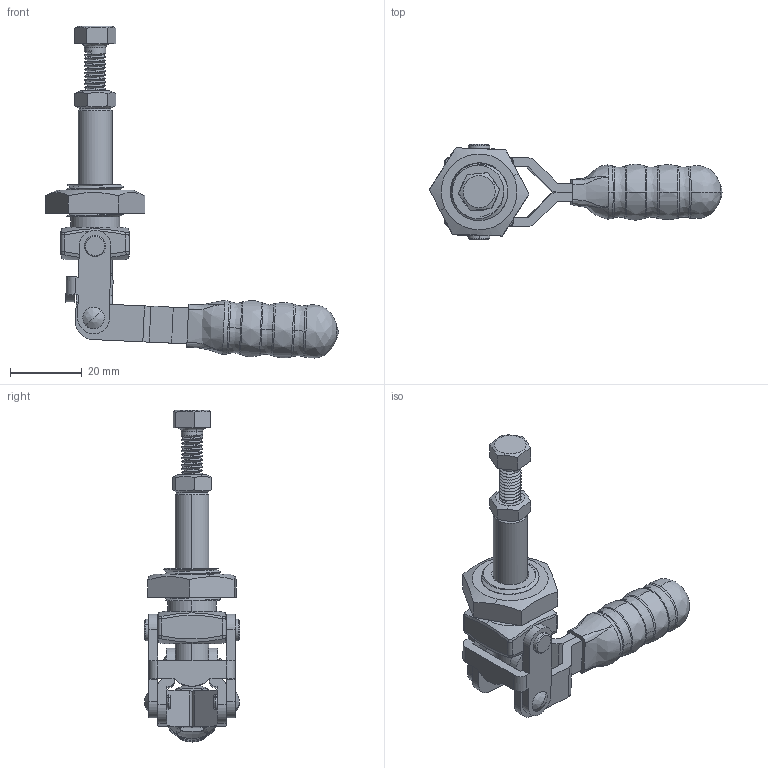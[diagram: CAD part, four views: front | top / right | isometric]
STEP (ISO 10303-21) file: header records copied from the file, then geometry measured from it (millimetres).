
FILE_DESCRIPTION (( 'STEP AP214' ), '1' );
FILE_NAME ('DST-36202M.STEP', '2023-01-05T14:45:30', ( '' ), ( '' ), 'SwSTEP 2.0', 'SolidWorks 2015', '' );
FILE_SCHEMA (( 'AUTOMOTIVE_DESIGN' ));
Length unit declared in the file: millimetre
Products named in the file (12): DST-36202M-01; DST-36202M-07; DST-36202M-03 HANDLE; DST-36202M; M6; DST-36202M-02 CREST STALK; DST-36202M-04 CONNECTING-PLATE; M6X40; DST-36202M-06; DST-36202M-05; DST-36202M-08; DST-36202M-09
Assembly tree (13 placements, depth 2):
  DST-36202M
    DST-36202M-01
    DST-36202M-02 CREST STALK
    DST-36202M-03 HANDLE
    DST-36202M-07
    DST-36202M-04 CONNECTING-PLATE
    DST-36202M-08  x2
    DST-36202M-06  x2
    M6
    M6X40
    DST-36202M-09
    DST-36202M-05
Bounding box: 81.56 x 26.6 x 92.3 mm (x, y, z)
Volume: 20482.1 mm3; surface area: 18634.7 mm2
Topology: 14 solids, 14 shells, 471 faces, 1242 edges, 790 vertices
Faces by surface type: cylinder 236, plane 94, bspline 89, cone 52
Entity records: 24675 total; most frequent: CARTESIAN_POINT 14456, ORIENTED_EDGE 2350, DIRECTION 1704, EDGE_CURVE 1175, VERTEX_POINT 762, AXIS2_PLACEMENT_3D 637, EDGE_LOOP 481, ADVANCED_FACE 445
